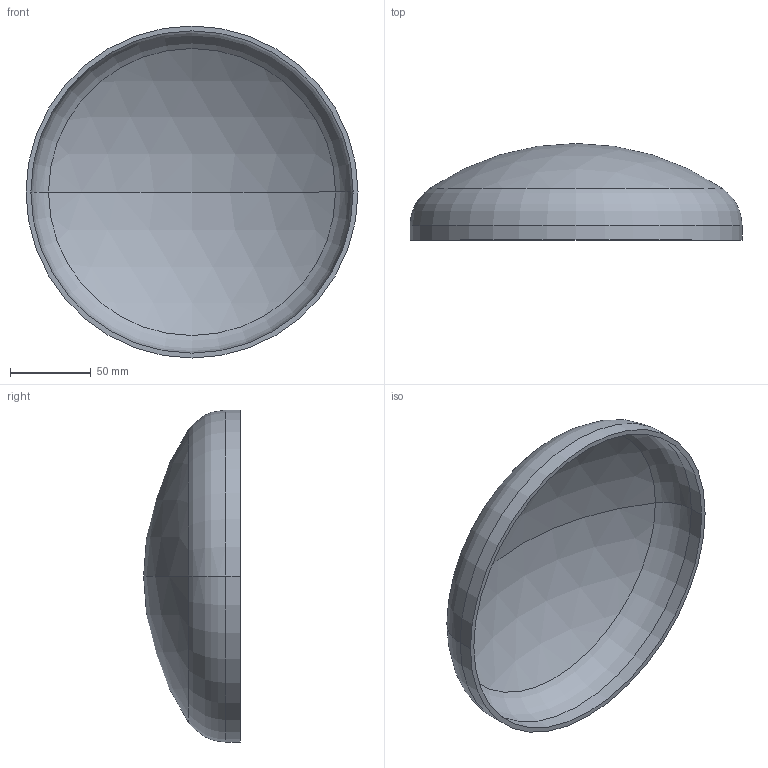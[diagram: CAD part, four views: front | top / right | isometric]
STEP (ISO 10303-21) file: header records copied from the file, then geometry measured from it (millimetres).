
FILE_DESCRIPTION (( 'STEP AP203' ), '1' );
FILE_NAME ('3D_R365_206x3_173371300.STEP', '2024-07-16T06:45:06', ( '' ), ( '' ), 'SwSTEP 2.0', 'SolidWorks 2024', '' );
FILE_SCHEMA (( 'CONFIG_CONTROL_DESIGN' ));
Length unit declared in the file: millimetre
Products named in the file (1): 3D_R365_206x3_173371300
Bounding box: 206 x 60 x 206 mm (x, y, z)
Volume: 148024.5 mm3; surface area: 100615 mm2
Topology: 1 solids, 1 shells, 13 faces, 24 edges, 14 vertices
Faces by surface type: sphere 4, torus 4, cylinder 4, plane 1
Entity records: 407 total; most frequent: DIRECTION 72, CARTESIAN_POINT 52, ORIENTED_EDGE 48, AXIS2_PLACEMENT_3D 34, EDGE_CURVE 24, CIRCLE 20, EDGE_LOOP 14, VERTEX_POINT 14
